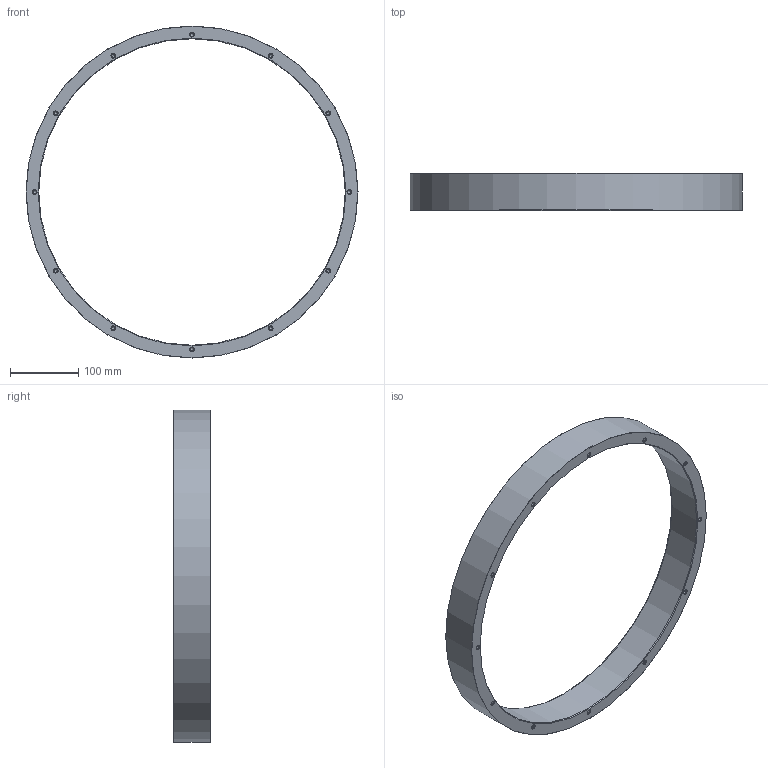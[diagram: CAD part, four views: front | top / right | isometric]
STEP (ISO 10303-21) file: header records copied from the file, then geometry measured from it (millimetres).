
FILE_DESCRIPTION(('STEP AP214'), '1');
FILE_NAME('ﾌﾀﾍﾏ.684252.020-01 ﾐⅳⅱ 580x54', '', ('UNSPECIFIED'), ('UNSPECIFIED'), 'C3D Converter', 'C3D Toolkit', '');
FILE_SCHEMA(('AUTOMOTIVE_DESIGN { 1 0 10303 214 3 1 1}'));
Length unit declared in the file: millimetre
Products named in the file (1): МАНП.684252.020-01
Bounding box: 487.4 x 54 x 487.4 mm (x, y, z)
Volume: 1478669 mm3; surface area: 216755.6 mm2
Topology: 1 solids, 1 shells, 80 faces, 182 edges, 104 vertices
Faces by surface type: cone 50, cylinder 26, plane 2, torus 2
Full cylindrical faces by diameter (mm): 4.917 x24, 450 x1, 487.4 x1
Entity records: 2288 total; most frequent: DIRECTION 322, CARTESIAN_POINT 241, AXIS2_PLACEMENT_3D 161, EDGE_LOOP 160, ORIENTED_EDGE 160, FACE_OUTER_BOUND 132, COLOUR_RGB 81, FILL_AREA_STYLE_COLOUR 81
